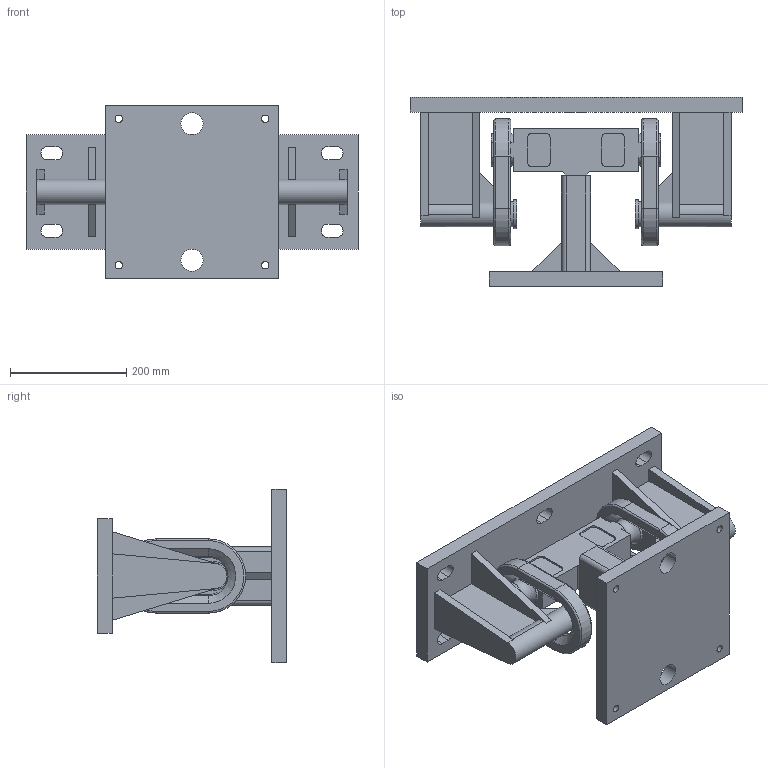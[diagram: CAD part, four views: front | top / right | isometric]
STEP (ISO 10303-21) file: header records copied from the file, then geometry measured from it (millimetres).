
FILE_DESCRIPTION(/* description */ (''),/* implementation_level */ '2;1');
FILE_NAME(/* name */ 'C:/Users/fardi/Dropbox/Work/Anyload/Load Cell Models/Product Catalog 3D/Weight Modules/102/102THM5/102THM5-(50-75)klb v15.step',/* time_stamp */ '2020-03-24T12:57:33-07:00',/* author */ (''),/* organization */ (''),/* preprocessor_version */ 'ST-DEVELOPER v18',/* originating_system */ 'Autodesk Translation Framework v8.12.0.6',/* authorisation */ '');
FILE_SCHEMA (('AUTOMOTIVE_DESIGN { 1 0 10303 214 3 1 1 }'));
Length unit declared in the file: millimetre
Products named in the file (6): 102THM5-(50-75)klb; Base; 102TH-(50-75)klb; Connector; Loops; Top
Assembly tree (5 placements, depth 3):
  102THM5-(50-75)klb
    Base
    102TH-(50-75)klb
      Connector
    Loops
    Top
Bounding box: 571.5 x 325.6 x 298.4 mm (x, y, z)
Volume: 9246815.8 mm3; surface area: 914140.6 mm2
Topology: 6 solids, 6 shells, 244 faces, 619 edges, 402 vertices
Faces by surface type: plane 145, cylinder 75, torus 14, cone 9, bspline 1
Full cylindrical faces by diameter (mm): 5.1 x1, 10 x1, 12 x2, 12.7 x4, 13 x1, 38.1 x2, 43.5 x2, 49.5 x2
Entity records: 7739 total; most frequent: CARTESIAN_POINT 1475, DIRECTION 1314, ORIENTED_EDGE 1236, EDGE_CURVE 618, AXIS2_PLACEMENT_3D 454, LINE 406, VECTOR 406, VERTEX_POINT 402
